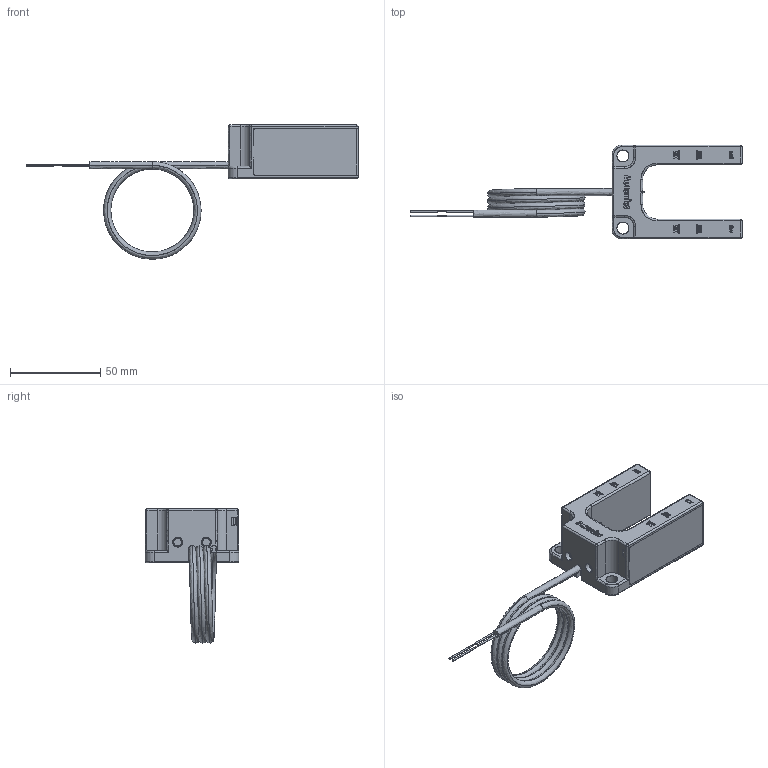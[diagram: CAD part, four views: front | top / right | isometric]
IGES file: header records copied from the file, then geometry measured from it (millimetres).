
Start section: SolidWorks IGES file using analytic representation for surfaces
Global section: file name: C:\Users\10116018\Desktop\MU_权其捞瘤寇屈档\MU-1A-30_MU-1B-30.IGS; native system: SolidWorks 2018; preprocessor: SolidWorks 2018; author: 10116018; date: 210729.134918; units: millimetre
Bounding box: 184 x 52 x 74.5 mm (x, y, z)
Surface area: 23543.3 mm2 (no closed solid volume)
Topology: 0 solids, 0 shells, 809 faces, 7348 edges, 7330 vertices
Faces by surface type: bspline 637, revolution 172
